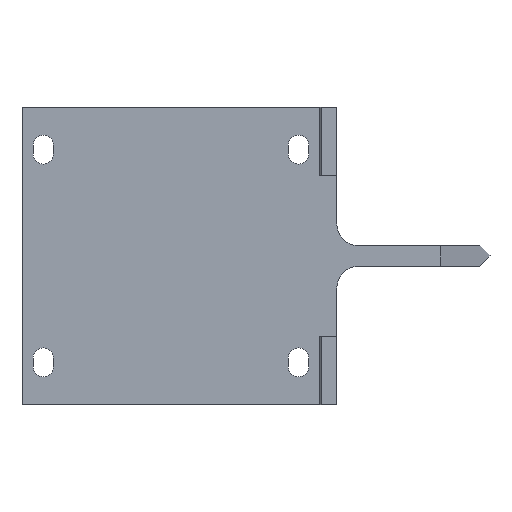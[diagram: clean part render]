
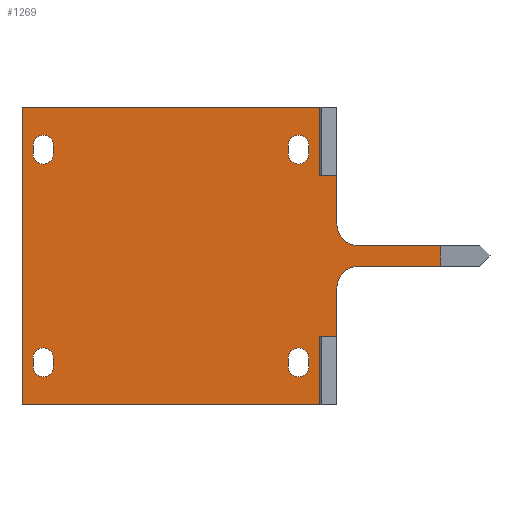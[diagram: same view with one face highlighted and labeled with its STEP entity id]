
A CAD part, front view. The second image highlights one B-rep face of the part: STEP entity #1269.
In plain terms, the highlighted planar face has unit normal (0, -1, 0).
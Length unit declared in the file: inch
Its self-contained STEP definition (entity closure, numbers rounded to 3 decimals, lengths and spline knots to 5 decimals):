
#221=CARTESIAN_POINT('',(-2.565,-0.5,-0.65));
#222=VERTEX_POINT('',#221);
#223=CARTESIAN_POINT('',(-2.685,-0.5,-0.65));
#224=VERTEX_POINT('',#223);
#225=CARTESIAN_POINT('',(-2.625,-0.5,-0.65));
#226=DIRECTION('',(0.0,1.0,0.0));
#227=DIRECTION('',(0.0,0.0,1.0));
#228=AXIS2_PLACEMENT_3D('',#225,#226,#227);
#229=CIRCLE('',#228,0.06);
#230=EDGE_CURVE('',#222,#224,#229,.T.);
#255=CARTESIAN_POINT('',(-2.685,-0.5,-0.6));
#256=VERTEX_POINT('',#255);
#263=CARTESIAN_POINT('',(-2.685,-0.5,-0.15));
#264=DIRECTION('',(0.0,0.0,1.0));
#265=VECTOR('',#264,1.0);
#266=LINE('',#263,#265);
#267=EDGE_CURVE('',#224,#256,#266,.T.);
#279=CARTESIAN_POINT('',(-2.565,-0.5,-0.6));
#280=VERTEX_POINT('',#279);
#281=CARTESIAN_POINT('',(-2.625,-0.5,-0.6));
#282=DIRECTION('',(0.0,1.0,0.0));
#283=DIRECTION('',(0.0,0.0,1.0));
#284=AXIS2_PLACEMENT_3D('',#281,#282,#283);
#285=CIRCLE('',#284,0.06);
#286=EDGE_CURVE('',#256,#280,#285,.T.);
#307=CARTESIAN_POINT('',(-2.565,-0.5,-0.25));
#308=DIRECTION('',(-0.0,0.0,-1.0));
#309=VECTOR('',#308,1.0);
#310=LINE('',#307,#309);
#311=EDGE_CURVE('',#280,#222,#310,.T.);
#504=CARTESIAN_POINT('',(-1.065,-0.5,-0.65));
#505=VERTEX_POINT('',#504);
#506=CARTESIAN_POINT('',(-1.185,-0.5,-0.65));
#507=VERTEX_POINT('',#506);
#508=CARTESIAN_POINT('',(-1.125,-0.5,-0.65));
#509=DIRECTION('',(0.0,1.0,0.0));
#510=DIRECTION('',(0.0,0.0,1.0));
#511=AXIS2_PLACEMENT_3D('',#508,#509,#510);
#512=CIRCLE('',#511,0.06);
#513=EDGE_CURVE('',#505,#507,#512,.T.);
#538=CARTESIAN_POINT('',(-1.185,-0.5,-0.6));
#539=VERTEX_POINT('',#538);
#546=CARTESIAN_POINT('',(-1.185,-0.5,-0.15));
#547=DIRECTION('',(0.0,0.0,1.0));
#548=VECTOR('',#547,1.0);
#549=LINE('',#546,#548);
#550=EDGE_CURVE('',#507,#539,#549,.T.);
#562=CARTESIAN_POINT('',(-1.065,-0.5,-0.6));
#563=VERTEX_POINT('',#562);
#570=CARTESIAN_POINT('',(-1.125,-0.5,-0.6));
#571=DIRECTION('',(0.0,1.0,0.0));
#572=DIRECTION('',(0.0,0.0,1.0));
#573=AXIS2_PLACEMENT_3D('',#570,#571,#572);
#574=CIRCLE('',#573,0.06);
#575=EDGE_CURVE('',#539,#563,#574,.T.);
#590=CARTESIAN_POINT('',(-1.065,-0.5,-0.25));
#591=DIRECTION('',(-0.0,0.0,-1.0));
#592=VECTOR('',#591,1.0);
#593=LINE('',#590,#592);
#594=EDGE_CURVE('',#563,#505,#593,.T.);
#656=CARTESIAN_POINT('',(-0.9,-0.5,-0.189));
#657=VERTEX_POINT('',#656);
#664=CARTESIAN_POINT('',(-0.9,-0.5,-0.475));
#665=VERTEX_POINT('',#664);
#666=CARTESIAN_POINT('',(-0.9,-0.5,0.44375));
#667=DIRECTION('',(-0.0,0.0,1.0));
#668=VECTOR('',#667,1.0);
#669=LINE('',#666,#668);
#670=EDGE_CURVE('',#665,#657,#669,.T.);
#919=CARTESIAN_POINT('',(-0.9,-0.5,0.475));
#920=VERTEX_POINT('',#919);
#927=CARTESIAN_POINT('',(-0.9,-0.5,0.189));
#928=VERTEX_POINT('',#927);
#929=CARTESIAN_POINT('',(-0.9,-0.5,0.44375));
#930=DIRECTION('',(-0.0,0.0,1.0));
#931=VECTOR('',#930,1.0);
#932=LINE('',#929,#931);
#933=EDGE_CURVE('',#928,#920,#932,.T.);
#952=CARTESIAN_POINT('',(-2.75,-0.5,0.875));
#953=VERTEX_POINT('',#952);
#960=CARTESIAN_POINT('',(-1.,-0.5,0.875));
#961=VERTEX_POINT('',#960);
#962=CARTESIAN_POINT('',(-1.6075,-0.5,0.875));
#963=DIRECTION('',(-1.0,0.0,-0.0));
#964=VECTOR('',#963,1.0);
#965=LINE('',#962,#964);
#966=EDGE_CURVE('',#961,#953,#965,.T.);
#1049=CARTESIAN_POINT('',(-0.28868,-0.5,-0.059));
#1050=VERTEX_POINT('',#1049);
#1057=CARTESIAN_POINT('',(-0.77,-0.5,-0.059));
#1058=VERTEX_POINT('',#1057);
#1059=CARTESIAN_POINT('',(-0.35487,-0.5,-0.059));
#1060=DIRECTION('',(1.0,0.0,0.0));
#1061=VECTOR('',#1060,1.0);
#1062=LINE('',#1059,#1061);
#1063=EDGE_CURVE('',#1058,#1050,#1062,.T.);
#1082=CARTESIAN_POINT('',(-0.28868,-0.5,0.059));
#1083=VERTEX_POINT('',#1082);
#1090=CARTESIAN_POINT('',(-0.28868,-0.5,-2.08621));
#1091=DIRECTION('',(0.0,0.0,1.0));
#1092=VECTOR('',#1091,1.0);
#1093=LINE('',#1090,#1092);
#1094=EDGE_CURVE('',#1050,#1083,#1093,.T.);
#1107=ORIENTED_EDGE('',*,*,#1094,.T.);
#1108=CARTESIAN_POINT('',(-0.77,-0.5,0.059));
#1109=VERTEX_POINT('',#1108);
#1110=CARTESIAN_POINT('',(-0.84687,-0.5,0.059));
#1111=DIRECTION('',(1.0,0.0,0.0));
#1112=VECTOR('',#1111,1.0);
#1113=LINE('',#1110,#1112);
#1114=EDGE_CURVE('',#1109,#1083,#1113,.T.);
#1115=ORIENTED_EDGE('',*,*,#1114,.F.);
#1116=CARTESIAN_POINT('',(-0.77,-0.5,0.189));
#1117=DIRECTION('',(0.0,-1.0,0.0));
#1118=DIRECTION('',(-0.707,0.0,-0.707));
#1119=AXIS2_PLACEMENT_3D('',#1116,#1117,#1118);
#1120=CIRCLE('',#1119,0.13);
#1121=EDGE_CURVE('',#928,#1109,#1120,.T.);
#1122=ORIENTED_EDGE('',*,*,#1121,.F.);
#1123=ORIENTED_EDGE('',*,*,#933,.T.);
#1124=CARTESIAN_POINT('',(-1.,-0.5,0.475));
#1125=VERTEX_POINT('',#1124);
#1126=CARTESIAN_POINT('',(-1.2765,-0.5,0.475));
#1127=DIRECTION('',(-1.0,0.0,-0.0));
#1128=VECTOR('',#1127,1.0);
#1129=LINE('',#1126,#1128);
#1130=EDGE_CURVE('',#920,#1125,#1129,.T.);
#1131=ORIENTED_EDGE('',*,*,#1130,.T.);
#1132=CARTESIAN_POINT('',(-1.,-0.5,0.30157));
#1133=DIRECTION('',(-0.0,0.0,1.0));
#1134=VECTOR('',#1133,1.0);
#1135=LINE('',#1132,#1134);
#1136=EDGE_CURVE('',#1125,#961,#1135,.T.);
#1137=ORIENTED_EDGE('',*,*,#1136,.T.);
#1138=ORIENTED_EDGE('',*,*,#966,.T.);
#1139=CARTESIAN_POINT('',(-2.75,-0.5,-0.875));
#1140=VERTEX_POINT('',#1139);
#1141=CARTESIAN_POINT('',(-2.75,-0.5,0.0125));
#1142=DIRECTION('',(-0.0,0.0,1.0));
#1143=VECTOR('',#1142,1.0);
#1144=LINE('',#1141,#1143);
#1145=EDGE_CURVE('',#1140,#953,#1144,.T.);
#1146=ORIENTED_EDGE('',*,*,#1145,.F.);
#1147=CARTESIAN_POINT('',(-1.,-0.5,-0.875));
#1148=VERTEX_POINT('',#1147);
#1149=CARTESIAN_POINT('',(-0.24125,-0.5,-0.875));
#1150=DIRECTION('',(-1.0,0.0,-0.0));
#1151=VECTOR('',#1150,1.0);
#1152=LINE('',#1149,#1151);
#1153=EDGE_CURVE('',#1148,#1140,#1152,.T.);
#1154=ORIENTED_EDGE('',*,*,#1153,.F.);
#1155=CARTESIAN_POINT('',(-1.,-0.5,-0.475));
#1156=VERTEX_POINT('',#1155);
#1157=CARTESIAN_POINT('',(-1.,-0.5,-0.28907));
#1158=DIRECTION('',(-0.0,0.0,1.0));
#1159=VECTOR('',#1158,1.0);
#1160=LINE('',#1157,#1159);
#1161=EDGE_CURVE('',#1148,#1156,#1160,.T.);
#1162=ORIENTED_EDGE('',*,*,#1161,.T.);
#1163=CARTESIAN_POINT('',(-1.2765,-0.5,-0.475));
#1164=DIRECTION('',(1.0,0.0,0.0));
#1165=VECTOR('',#1164,1.0);
#1166=LINE('',#1163,#1165);
#1167=EDGE_CURVE('',#1156,#665,#1166,.T.);
#1168=ORIENTED_EDGE('',*,*,#1167,.T.);
#1169=ORIENTED_EDGE('',*,*,#670,.T.);
#1170=CARTESIAN_POINT('',(-0.77,-0.5,-0.189));
#1171=DIRECTION('',(0.0,-1.0,0.0));
#1172=DIRECTION('',(-0.707,0.0,0.707));
#1173=AXIS2_PLACEMENT_3D('',#1170,#1171,#1172);
#1174=CIRCLE('',#1173,0.13);
#1175=EDGE_CURVE('',#1058,#657,#1174,.T.);
#1176=ORIENTED_EDGE('',*,*,#1175,.F.);
#1177=ORIENTED_EDGE('',*,*,#1063,.T.);
#1178=EDGE_LOOP('',(#1107,#1115,#1122,#1123,#1131,#1137,#1138,#1146,#1154,#1162,#1168,#1169,#1176,#1177));
#1179=FACE_OUTER_BOUND('',#1178,.T.);
#1180=ORIENTED_EDGE('',*,*,#230,.T.);
#1181=ORIENTED_EDGE('',*,*,#267,.T.);
#1182=ORIENTED_EDGE('',*,*,#286,.T.);
#1183=ORIENTED_EDGE('',*,*,#311,.T.);
#1184=EDGE_LOOP('',(#1180,#1181,#1182,#1183));
#1185=FACE_BOUND('',#1184,.T.);
#1186=ORIENTED_EDGE('',*,*,#513,.T.);
#1187=ORIENTED_EDGE('',*,*,#550,.T.);
#1188=ORIENTED_EDGE('',*,*,#575,.T.);
#1189=ORIENTED_EDGE('',*,*,#594,.T.);
#1190=EDGE_LOOP('',(#1186,#1187,#1188,#1189));
#1191=FACE_BOUND('',#1190,.T.);
#1192=CARTESIAN_POINT('',(-1.185,-0.5,0.6));
#1193=VERTEX_POINT('',#1192);
#1194=CARTESIAN_POINT('',(-1.065,-0.5,0.6));
#1195=VERTEX_POINT('',#1194);
#1196=CARTESIAN_POINT('',(-1.125,-0.5,0.6));
#1197=DIRECTION('',(0.0,-1.0,0.0));
#1198=DIRECTION('',(0.0,0.0,-1.0));
#1199=AXIS2_PLACEMENT_3D('',#1196,#1197,#1198);
#1200=CIRCLE('',#1199,0.06);
#1201=EDGE_CURVE('',#1193,#1195,#1200,.T.);
#1202=ORIENTED_EDGE('',*,*,#1201,.F.);
#1203=CARTESIAN_POINT('',(-1.185,-0.5,0.65));
#1204=VERTEX_POINT('',#1203);
#1205=CARTESIAN_POINT('',(-1.185,-0.5,0.1625));
#1206=DIRECTION('',(0.0,0.0,-1.0));
#1207=VECTOR('',#1206,1.0);
#1208=LINE('',#1205,#1207);
#1209=EDGE_CURVE('',#1204,#1193,#1208,.T.);
#1210=ORIENTED_EDGE('',*,*,#1209,.F.);
#1211=CARTESIAN_POINT('',(-1.065,-0.5,0.65));
#1212=VERTEX_POINT('',#1211);
#1213=CARTESIAN_POINT('',(-1.125,-0.5,0.65));
#1214=DIRECTION('',(0.0,-1.0,0.0));
#1215=DIRECTION('',(0.0,0.0,-1.0));
#1216=AXIS2_PLACEMENT_3D('',#1213,#1214,#1215);
#1217=CIRCLE('',#1216,0.06);
#1218=EDGE_CURVE('',#1212,#1204,#1217,.T.);
#1219=ORIENTED_EDGE('',*,*,#1218,.F.);
#1220=CARTESIAN_POINT('',(-1.065,-0.5,0.2625));
#1221=DIRECTION('',(-0.0,0.0,1.0));
#1222=VECTOR('',#1221,1.0);
#1223=LINE('',#1220,#1222);
#1224=EDGE_CURVE('',#1195,#1212,#1223,.T.);
#1225=ORIENTED_EDGE('',*,*,#1224,.F.);
#1226=EDGE_LOOP('',(#1202,#1210,#1219,#1225));
#1227=FACE_BOUND('',#1226,.T.);
#1228=CARTESIAN_POINT('',(-2.685,-0.5,0.65));
#1229=VERTEX_POINT('',#1228);
#1230=CARTESIAN_POINT('',(-2.685,-0.5,0.6));
#1231=VERTEX_POINT('',#1230);
#1232=CARTESIAN_POINT('',(-2.685,-0.5,0.1625));
#1233=DIRECTION('',(0.0,0.0,-1.0));
#1234=VECTOR('',#1233,1.0);
#1235=LINE('',#1232,#1234);
#1236=EDGE_CURVE('',#1229,#1231,#1235,.T.);
#1237=ORIENTED_EDGE('',*,*,#1236,.F.);
#1238=CARTESIAN_POINT('',(-2.565,-0.5,0.65));
#1239=VERTEX_POINT('',#1238);
#1240=CARTESIAN_POINT('',(-2.625,-0.5,0.65));
#1241=DIRECTION('',(0.0,-1.0,0.0));
#1242=DIRECTION('',(0.0,0.0,-1.0));
#1243=AXIS2_PLACEMENT_3D('',#1240,#1241,#1242);
#1244=CIRCLE('',#1243,0.06);
#1245=EDGE_CURVE('',#1239,#1229,#1244,.T.);
#1246=ORIENTED_EDGE('',*,*,#1245,.F.);
#1247=CARTESIAN_POINT('',(-2.565,-0.5,0.6));
#1248=VERTEX_POINT('',#1247);
#1249=CARTESIAN_POINT('',(-2.565,-0.5,0.2625));
#1250=DIRECTION('',(-0.0,0.0,1.0));
#1251=VECTOR('',#1250,1.0);
#1252=LINE('',#1249,#1251);
#1253=EDGE_CURVE('',#1248,#1239,#1252,.T.);
#1254=ORIENTED_EDGE('',*,*,#1253,.F.);
#1255=CARTESIAN_POINT('',(-2.625,-0.5,0.6));
#1256=DIRECTION('',(0.0,-1.0,0.0));
#1257=DIRECTION('',(0.0,0.0,-1.0));
#1258=AXIS2_PLACEMENT_3D('',#1255,#1256,#1257);
#1259=CIRCLE('',#1258,0.06);
#1260=EDGE_CURVE('',#1231,#1248,#1259,.T.);
#1261=ORIENTED_EDGE('',*,*,#1260,.F.);
#1262=EDGE_LOOP('',(#1237,#1246,#1254,#1261));
#1263=FACE_BOUND('',#1262,.T.);
#1264=CARTESIAN_POINT('',(-1.6075,-0.5,0.0125));
#1265=DIRECTION('',(0.0,1.0,0.0));
#1266=DIRECTION('',(1.0,0.0,0.0));
#1267=AXIS2_PLACEMENT_3D('',#1264,#1265,#1266);
#1268=PLANE('',#1267);
#1269=ADVANCED_FACE('',(#1179,#1185,#1191,#1227,#1263),#1268,.F.);
